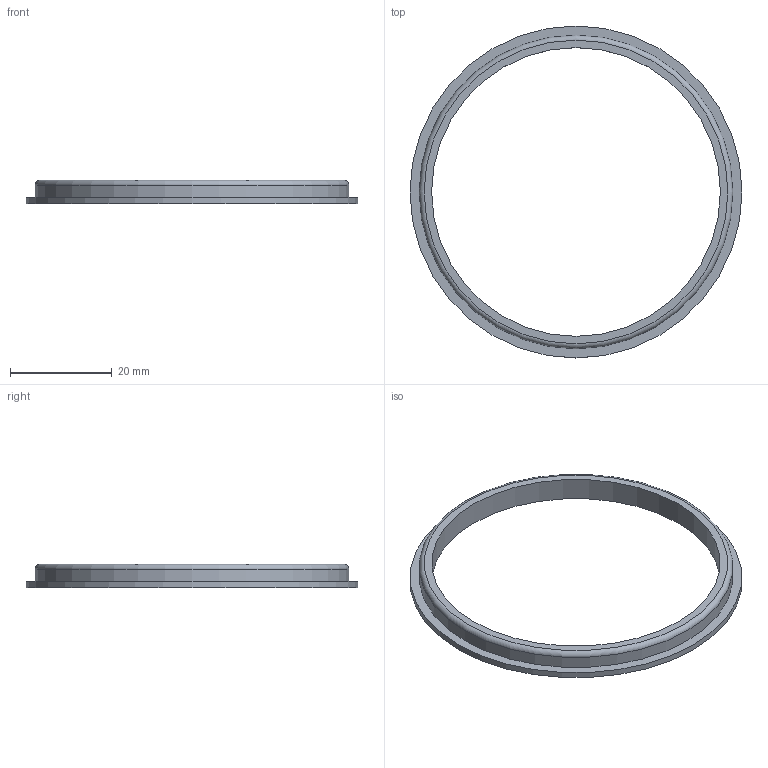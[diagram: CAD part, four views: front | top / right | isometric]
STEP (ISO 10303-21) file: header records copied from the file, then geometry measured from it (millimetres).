
FILE_DESCRIPTION(('Open CASCADE Model'),'2;1');
FILE_NAME('Open CASCADE Shape Model','2026-11-11T21:44:32',('Author'),( 'Open CASCADE'),'Open CASCADE STEP processor 8.0','build123d', 'Unknown');
FILE_SCHEMA(('AUTOMOTIVE_DESIGN { 1 0 10303 214 1 1 1 1 }'));
Length unit declared in the file: millimetre
Products named in the file (1): SOLID
Bounding box: 65.2 x 65.2 x 4.6 mm (x, y, z)
Volume: 2484.9 mm3; surface area: 3268.9 mm2
Topology: 1 solids, 1 shells, 7 faces, 11 edges, 7 vertices
Faces by surface type: cylinder 3, plane 3, torus 1
Full cylindrical faces by diameter (mm): 56.7 x1, 61.6 x1, 65.2 x1
Entity records: 320 total; most frequent: DIRECTION 55, CARTESIAN_POINT 50, ORIENTED_EDGE 22, PCURVE 22, DEFINITIONAL_REPRESENTATION 22, LINE 17, VECTOR 17, AXIS2_PLACEMENT_3D 16
